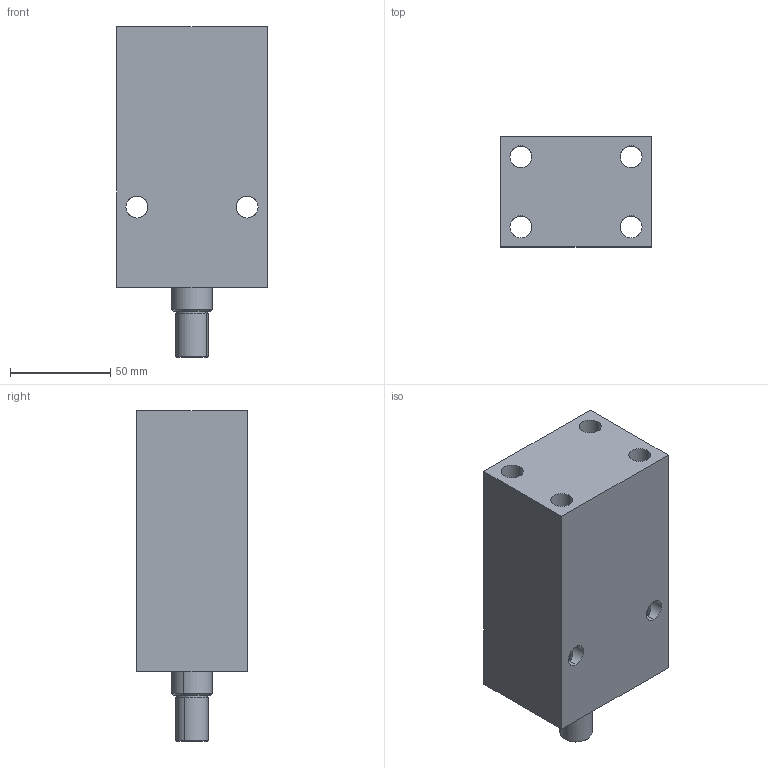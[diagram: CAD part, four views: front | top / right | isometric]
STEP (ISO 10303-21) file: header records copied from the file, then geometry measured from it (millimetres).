
FILE_DESCRIPTION (( 'STEP AP203' ), '1' );
FILE_NAME ('Block cylinder_B01C-275M.STEP', '2022-07-09T18:10:29', ( '' ), ( '' ), 'SwSTEP 2.0', 'SolidWorks 2017', '' );
FILE_SCHEMA (( 'CONFIG_CONTROL_DESIGN' ));
Length unit declared in the file: millimetre
Products named in the file (3): Piston_275M_50sT; Block cylinder_B01C-275M; Body_275M_50ST
Assembly tree (2 placements, depth 2):
  Block cylinder_B01C-275M
    Body_275M_50ST
    Piston_275M_50sT
Bounding box: 75 x 55 x 165 mm (x, y, z)
Volume: 493924.3 mm3; surface area: 73437.2 mm2
Topology: 2 solids, 2 shells, 345 faces, 940 edges, 614 vertices
Faces by surface type: plane 149, bspline 142, cylinder 46, cone 8
Entity records: 16923 total; most frequent: CARTESIAN_POINT 8914, ORIENTED_EDGE 1872, DIRECTION 1100, EDGE_CURVE 936, VERTEX_POINT 614, LINE 556, VECTOR 556, EDGE_LOOP 384
